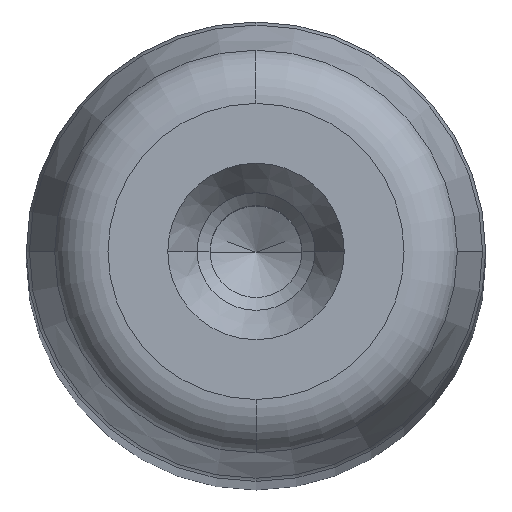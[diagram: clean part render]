
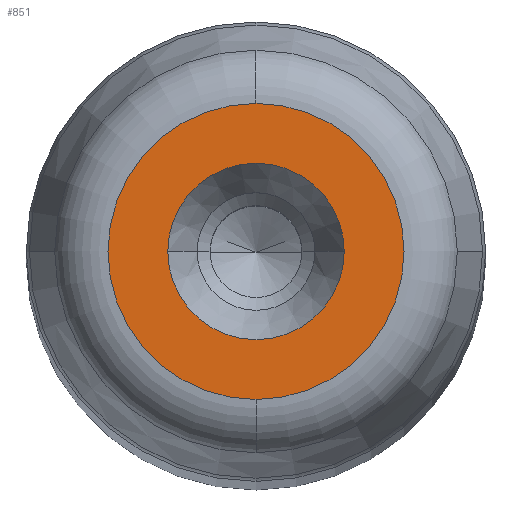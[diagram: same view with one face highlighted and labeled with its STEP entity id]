
A CAD part, top view. The second image highlights one B-rep face of the part: STEP entity #851.
In plain terms, the highlighted planar face has unit normal (0, 0, 1) as drawn and (0, 1, 0) by its records, which use the part's own axes.
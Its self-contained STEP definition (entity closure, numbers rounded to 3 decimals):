
#281=CARTESIAN_POINT('',(4.8,280.0,0.0));
#282=VERTEX_POINT('',#281);
#289=CARTESIAN_POINT('',(-4.8,280.0,0.));
#290=VERTEX_POINT('',#289);
#291=CARTESIAN_POINT('',(0.0,280.0,0.0));
#292=DIRECTION('',(0.0,1.0,0.0));
#293=DIRECTION('',(1.0,0.0,0.0));
#294=AXIS2_PLACEMENT_3D('',#291,#292,#293);
#295=CIRCLE('',#294,4.8);
#296=EDGE_CURVE('',#282,#290,#295,.T.);
#313=CARTESIAN_POINT('',(0.0,280.0,8.054));
#314=VERTEX_POINT('',#313);
#324=CARTESIAN_POINT('',(0.,280.0,-8.054));
#325=VERTEX_POINT('',#324);
#326=CARTESIAN_POINT('',(0.0,280.0,0.0));
#327=DIRECTION('',(0.0,1.0,0.0));
#328=DIRECTION('',(1.0,0.0,0.0));
#329=AXIS2_PLACEMENT_3D('',#326,#327,#328);
#330=CIRCLE('',#329,8.054);
#331=EDGE_CURVE('',#325,#314,#330,.T.);
#812=CARTESIAN_POINT('',(8.054,280.0,0.0));
#813=VERTEX_POINT('',#812);
#814=CARTESIAN_POINT('',(0.0,280.0,0.0));
#815=DIRECTION('',(0.0,1.0,0.0));
#816=DIRECTION('',(1.0,0.0,0.0));
#817=AXIS2_PLACEMENT_3D('',#814,#815,#816);
#818=CIRCLE('',#817,8.054);
#819=EDGE_CURVE('',#813,#325,#818,.T.);
#821=CARTESIAN_POINT('',(0.0,280.0,0.0));
#822=DIRECTION('',(0.0,1.0,0.0));
#823=DIRECTION('',(1.0,0.0,0.0));
#824=AXIS2_PLACEMENT_3D('',#821,#822,#823);
#825=CIRCLE('',#824,8.054);
#826=EDGE_CURVE('',#314,#813,#825,.T.);
#831=CARTESIAN_POINT('',(-8.86,280.0,-8.86));
#832=DIRECTION('',(0.0,1.0,0.0));
#833=DIRECTION('',(0.0,0.0,1.0));
#834=AXIS2_PLACEMENT_3D('',#831,#832,#833);
#835=PLANE('',#834);
#836=ORIENTED_EDGE('',*,*,#819,.T.);
#837=ORIENTED_EDGE('',*,*,#331,.T.);
#838=ORIENTED_EDGE('',*,*,#826,.T.);
#839=EDGE_LOOP('',(#836,#837,#838));
#840=FACE_OUTER_BOUND('',#839,.T.);
#841=ORIENTED_EDGE('',*,*,#296,.F.);
#842=CARTESIAN_POINT('',(0.0,280.0,0.0));
#843=DIRECTION('',(0.0,1.0,0.0));
#844=DIRECTION('',(1.0,0.0,0.0));
#845=AXIS2_PLACEMENT_3D('',#842,#843,#844);
#846=CIRCLE('',#845,4.8);
#847=EDGE_CURVE('',#290,#282,#846,.T.);
#848=ORIENTED_EDGE('',*,*,#847,.F.);
#849=EDGE_LOOP('',(#841,#848));
#850=FACE_BOUND('',#849,.T.);
#851=ADVANCED_FACE('',(#840,#850),#835,.T.);
